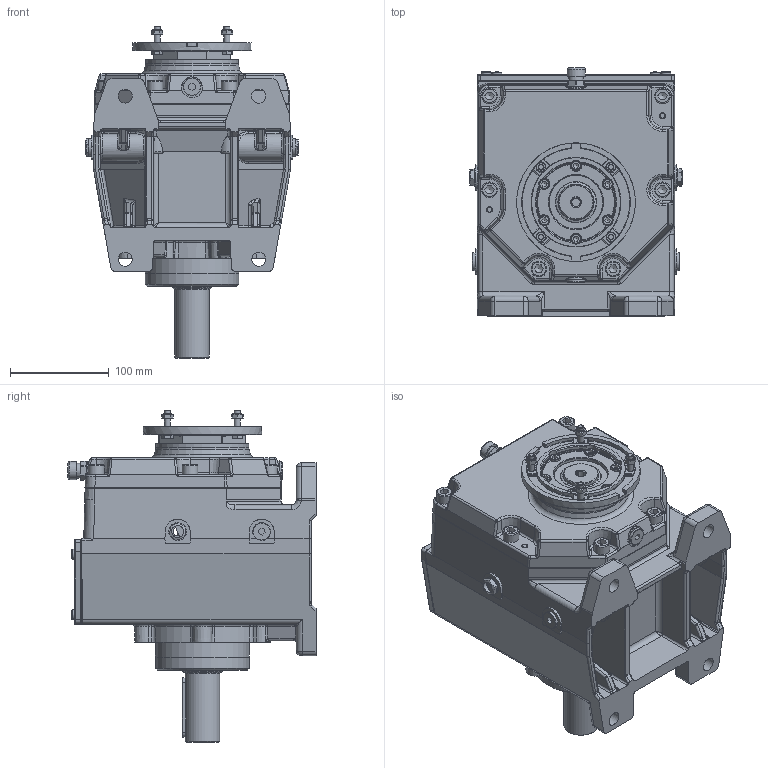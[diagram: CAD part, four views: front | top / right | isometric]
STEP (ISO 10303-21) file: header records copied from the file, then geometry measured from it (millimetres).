
FILE_DESCRIPTION((''),'2;1');
FILE_NAME('O:\Figurini\Figurini NHL\3D\35_3\MNHL 35_3\MNHL 35_3 PAM56 B5.stp','2013-07-23T12:52:28',('d.iannaccio'),(''),'Autodesk Inventor 2012','Autodesk Inventor 2012','');
FILE_SCHEMA(('AUTOMOTIVE_DESIGN { 1 0 10303 214 1 1 1 1 }'));
Length unit declared in the file: millimetre
Products named in the file (1): MNHL_35_3 PAM56 B5
Bounding box: 216 x 251 x 335.9 mm (x, y, z)
Volume: 2933945.4 mm3; surface area: 678824.7 mm2
Topology: 5 solids, 57 shells, 3157 faces, 7469 edges, 4439 vertices
Faces by surface type: cylinder 1022, plane 1010, bspline 397, torus 363, cone 233, sphere 132
Full cylindrical faces by diameter (mm): 4.134 x2, 4.917 x12, 6 x36, 6.5 x18, 6.75 x1, 7 x6, 8.376 x13, 8.5 x1, 8.88 x4, 9.9 x1, 10 x25, 10.5 x1, 11 x19, 11.445 x1, 12.102 x2, 12.5 x1, 13 x3, 14 x4, 14.5 x1, 15 x2, 15.01 x1, 16 x6, 18 x5, 18.3 x1, 19 x1, 19.37 x1, 19.97 x2, 29.4 x1, 30 x1, 33 x1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
Entity records: 100772 total; most frequent: CARTESIAN_POINT 29624, DIRECTION 14485, ORIENTED_EDGE 13354, EDGE_CURVE 6677, AXIS2_PLACEMENT_3D 5926, VERTEX_POINT 4231, EDGE_LOOP 3840, STYLED_ITEM 3160
